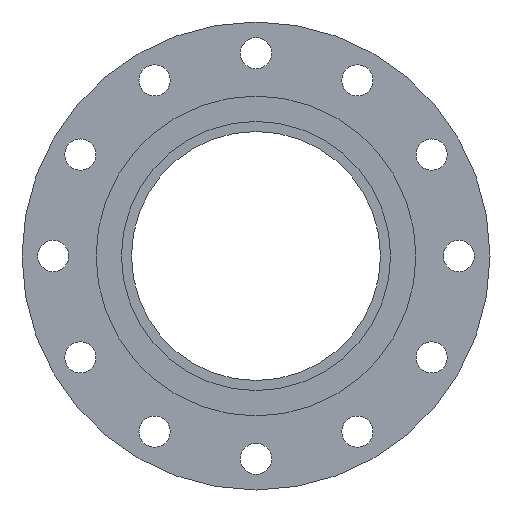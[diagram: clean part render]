
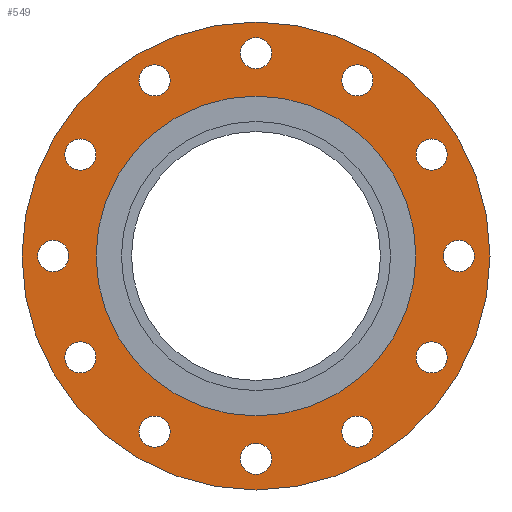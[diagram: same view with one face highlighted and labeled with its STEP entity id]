
A CAD part, left-side view. The second image highlights one B-rep face of the part: STEP entity #549.
In plain terms, the highlighted planar face has unit normal (-1, 0, 0).
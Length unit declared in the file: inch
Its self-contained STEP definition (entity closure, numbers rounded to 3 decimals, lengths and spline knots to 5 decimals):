
#14=FACE_BOUND('',#92,.T.);
#15=FACE_BOUND('',#93,.T.);
#16=FACE_BOUND('',#94,.T.);
#17=FACE_BOUND('',#95,.T.);
#18=FACE_BOUND('',#96,.T.);
#19=FACE_BOUND('',#97,.T.);
#20=FACE_BOUND('',#98,.T.);
#21=FACE_BOUND('',#99,.T.);
#22=FACE_BOUND('',#100,.T.);
#23=FACE_BOUND('',#101,.T.);
#24=FACE_BOUND('',#102,.T.);
#25=FACE_BOUND('',#103,.T.);
#26=FACE_BOUND('',#104,.T.);
#45=PLANE('',#623);
#65=FACE_OUTER_BOUND('',#91,.T.);
#91=EDGE_LOOP('',(#402,#403));
#92=EDGE_LOOP('',(#404));
#93=EDGE_LOOP('',(#405));
#94=EDGE_LOOP('',(#406));
#95=EDGE_LOOP('',(#407));
#96=EDGE_LOOP('',(#408));
#97=EDGE_LOOP('',(#409));
#98=EDGE_LOOP('',(#410));
#99=EDGE_LOOP('',(#411));
#100=EDGE_LOOP('',(#412));
#101=EDGE_LOOP('',(#413));
#102=EDGE_LOOP('',(#414));
#103=EDGE_LOOP('',(#415));
#104=EDGE_LOOP('',(#416,#417));
#174=CIRCLE('',#584,0.5);
#176=CIRCLE('',#587,0.5);
#178=CIRCLE('',#590,0.5);
#180=CIRCLE('',#593,0.5);
#182=CIRCLE('',#596,0.5);
#184=CIRCLE('',#599,0.5);
#186=CIRCLE('',#602,0.5);
#188=CIRCLE('',#605,0.5);
#190=CIRCLE('',#608,0.5);
#192=CIRCLE('',#611,0.5);
#194=CIRCLE('',#614,0.5);
#196=CIRCLE('',#617,0.5);
#197=CIRCLE('',#619,7.5);
#198=CIRCLE('',#620,7.5);
#201=CIRCLE('',#624,5.125);
#202=CIRCLE('',#625,5.125);
#226=VERTEX_POINT('',#841);
#228=VERTEX_POINT('',#847);
#230=VERTEX_POINT('',#853);
#232=VERTEX_POINT('',#859);
#234=VERTEX_POINT('',#865);
#236=VERTEX_POINT('',#871);
#238=VERTEX_POINT('',#877);
#240=VERTEX_POINT('',#883);
#242=VERTEX_POINT('',#889);
#244=VERTEX_POINT('',#895);
#246=VERTEX_POINT('',#901);
#248=VERTEX_POINT('',#907);
#249=VERTEX_POINT('',#911);
#250=VERTEX_POINT('',#912);
#253=VERTEX_POINT('',#921);
#254=VERTEX_POINT('',#922);
#279=EDGE_CURVE('',#226,#226,#174,.T.);
#282=EDGE_CURVE('',#228,#228,#176,.T.);
#285=EDGE_CURVE('',#230,#230,#178,.T.);
#288=EDGE_CURVE('',#232,#232,#180,.T.);
#291=EDGE_CURVE('',#234,#234,#182,.T.);
#294=EDGE_CURVE('',#236,#236,#184,.T.);
#297=EDGE_CURVE('',#238,#238,#186,.T.);
#300=EDGE_CURVE('',#240,#240,#188,.T.);
#303=EDGE_CURVE('',#242,#242,#190,.T.);
#306=EDGE_CURVE('',#244,#244,#192,.T.);
#309=EDGE_CURVE('',#246,#246,#194,.T.);
#312=EDGE_CURVE('',#248,#248,#196,.T.);
#313=EDGE_CURVE('',#249,#250,#197,.T.);
#314=EDGE_CURVE('',#250,#249,#198,.T.);
#318=EDGE_CURVE('',#253,#254,#201,.T.);
#319=EDGE_CURVE('',#254,#253,#202,.T.);
#402=ORIENTED_EDGE('',*,*,#313,.T.);
#403=ORIENTED_EDGE('',*,*,#314,.T.);
#404=ORIENTED_EDGE('',*,*,#279,.T.);
#405=ORIENTED_EDGE('',*,*,#282,.T.);
#406=ORIENTED_EDGE('',*,*,#285,.T.);
#407=ORIENTED_EDGE('',*,*,#288,.T.);
#408=ORIENTED_EDGE('',*,*,#291,.T.);
#409=ORIENTED_EDGE('',*,*,#294,.T.);
#410=ORIENTED_EDGE('',*,*,#297,.T.);
#411=ORIENTED_EDGE('',*,*,#300,.T.);
#412=ORIENTED_EDGE('',*,*,#303,.T.);
#413=ORIENTED_EDGE('',*,*,#306,.T.);
#414=ORIENTED_EDGE('',*,*,#309,.T.);
#415=ORIENTED_EDGE('',*,*,#312,.T.);
#416=ORIENTED_EDGE('',*,*,#318,.F.);
#417=ORIENTED_EDGE('',*,*,#319,.F.);
#549=ADVANCED_FACE('',(#65,#14,#15,#16,#17,#18,#19,#20,#21,#22,#23,#24,
#25,#26),#45,.T.);
#584=AXIS2_PLACEMENT_3D('',#843,#667,#668);
#587=AXIS2_PLACEMENT_3D('',#849,#674,#675);
#590=AXIS2_PLACEMENT_3D('',#855,#681,#682);
#593=AXIS2_PLACEMENT_3D('',#861,#688,#689);
#596=AXIS2_PLACEMENT_3D('',#867,#695,#696);
#599=AXIS2_PLACEMENT_3D('',#873,#702,#703);
#602=AXIS2_PLACEMENT_3D('',#879,#709,#710);
#605=AXIS2_PLACEMENT_3D('',#885,#716,#717);
#608=AXIS2_PLACEMENT_3D('',#891,#723,#724);
#611=AXIS2_PLACEMENT_3D('',#897,#730,#731);
#614=AXIS2_PLACEMENT_3D('',#903,#737,#738);
#617=AXIS2_PLACEMENT_3D('',#909,#744,#745);
#619=AXIS2_PLACEMENT_3D('',#913,#748,#749);
#620=AXIS2_PLACEMENT_3D('',#914,#750,#751);
#623=AXIS2_PLACEMENT_3D('',#920,#757,#758);
#624=AXIS2_PLACEMENT_3D('',#923,#759,#760);
#625=AXIS2_PLACEMENT_3D('',#924,#761,#762);
#667=DIRECTION('center_axis',(1.,0.,0.));
#668=DIRECTION('ref_axis',(0.,-0.5,0.866));
#674=DIRECTION('center_axis',(1.,0.,0.));
#675=DIRECTION('ref_axis',(0.,-0.866,0.5));
#681=DIRECTION('center_axis',(1.,0.,0.));
#682=DIRECTION('ref_axis',(0.,-1.,0.));
#688=DIRECTION('center_axis',(1.,0.,0.));
#689=DIRECTION('ref_axis',(0.,-0.866,-0.5));
#695=DIRECTION('center_axis',(1.,0.,0.));
#696=DIRECTION('ref_axis',(0.,-0.5,-0.866));
#702=DIRECTION('center_axis',(1.,0.,0.));
#703=DIRECTION('ref_axis',(0.,0.,-1.));
#709=DIRECTION('center_axis',(1.,0.,0.));
#710=DIRECTION('ref_axis',(0.,0.5,-0.866));
#716=DIRECTION('center_axis',(1.,0.,0.));
#717=DIRECTION('ref_axis',(0.,0.866,-0.5));
#723=DIRECTION('center_axis',(1.,0.,0.));
#724=DIRECTION('ref_axis',(0.,1.,0.));
#730=DIRECTION('center_axis',(1.,0.,0.));
#731=DIRECTION('ref_axis',(0.,0.866,0.5));
#737=DIRECTION('center_axis',(1.,0.,0.));
#738=DIRECTION('ref_axis',(0.,0.5,0.866));
#744=DIRECTION('center_axis',(1.,0.,0.));
#745=DIRECTION('ref_axis',(0.,0.,1.));
#748=DIRECTION('center_axis',(-1.,0.,0.));
#749=DIRECTION('ref_axis',(0.,0.,1.));
#750=DIRECTION('center_axis',(-1.,0.,0.));
#751=DIRECTION('ref_axis',(0.,0.,1.));
#757=DIRECTION('center_axis',(-1.,0.,0.));
#758=DIRECTION('ref_axis',(0.,0.,1.));
#759=DIRECTION('center_axis',(-1.,0.,0.));
#760=DIRECTION('ref_axis',(0.,0.,1.));
#761=DIRECTION('center_axis',(-1.,0.,0.));
#762=DIRECTION('ref_axis',(0.,0.,1.));
#841=CARTESIAN_POINT('',(-1.62,3.5,-6.06218));
#843=CARTESIAN_POINT('Origin',(-1.62,3.25,-5.62917));
#847=CARTESIAN_POINT('',(-1.62,6.06218,-3.5));
#849=CARTESIAN_POINT('Origin',(-1.62,5.62917,-3.25));
#853=CARTESIAN_POINT('',(-1.62,7.,0.));
#855=CARTESIAN_POINT('Origin',(-1.62,6.5,0.));
#859=CARTESIAN_POINT('',(-1.62,6.06218,3.5));
#861=CARTESIAN_POINT('Origin',(-1.62,5.62917,3.25));
#865=CARTESIAN_POINT('',(-1.62,3.5,6.06218));
#867=CARTESIAN_POINT('Origin',(-1.62,3.25,5.62917));
#871=CARTESIAN_POINT('',(-1.62,0.,7.));
#873=CARTESIAN_POINT('Origin',(-1.62,0.,6.5));
#877=CARTESIAN_POINT('',(-1.62,-3.5,6.06218));
#879=CARTESIAN_POINT('Origin',(-1.62,-3.25,5.62917));
#883=CARTESIAN_POINT('',(-1.62,-6.06218,3.5));
#885=CARTESIAN_POINT('Origin',(-1.62,-5.62917,3.25));
#889=CARTESIAN_POINT('',(-1.62,-7.,0.));
#891=CARTESIAN_POINT('Origin',(-1.62,-6.5,0.));
#895=CARTESIAN_POINT('',(-1.62,-6.06218,-3.5));
#897=CARTESIAN_POINT('Origin',(-1.62,-5.62917,-3.25));
#901=CARTESIAN_POINT('',(-1.62,-3.5,-6.06218));
#903=CARTESIAN_POINT('Origin',(-1.62,-3.25,-5.62917));
#907=CARTESIAN_POINT('',(-1.62,0.,-7.));
#909=CARTESIAN_POINT('Origin',(-1.62,0.,-6.5));
#911=CARTESIAN_POINT('',(-1.62,0.,7.5));
#912=CARTESIAN_POINT('',(-1.62,0.,-7.5));
#913=CARTESIAN_POINT('Origin',(-1.62,0.,0.));
#914=CARTESIAN_POINT('Origin',(-1.62,0.,0.));
#920=CARTESIAN_POINT('Origin',(-1.62,0.,6.3125));
#921=CARTESIAN_POINT('',(-1.62,0.,5.125));
#922=CARTESIAN_POINT('',(-1.62,0.,-5.125));
#923=CARTESIAN_POINT('Origin',(-1.62,0.,0.));
#924=CARTESIAN_POINT('Origin',(-1.62,0.,0.));
